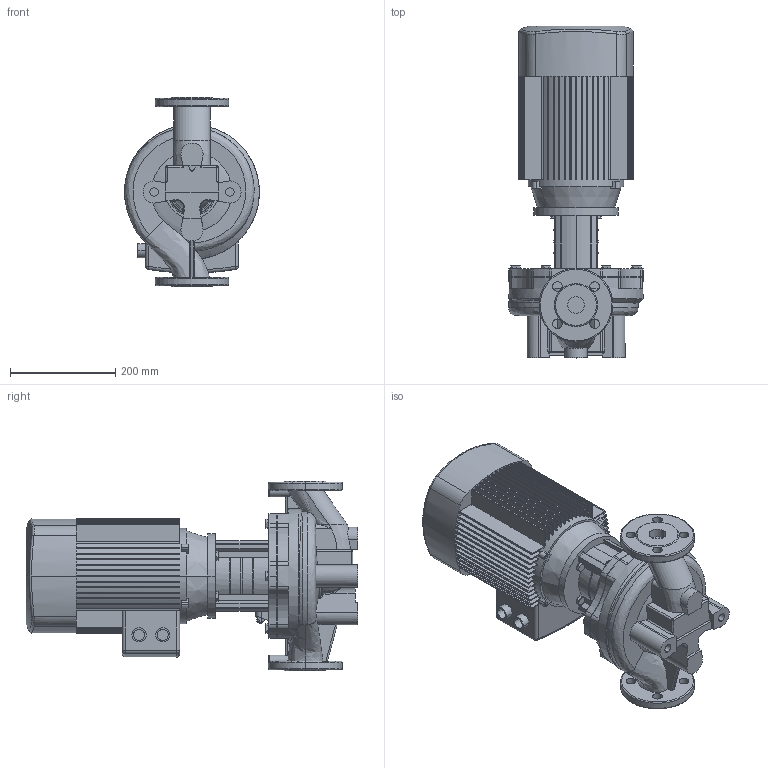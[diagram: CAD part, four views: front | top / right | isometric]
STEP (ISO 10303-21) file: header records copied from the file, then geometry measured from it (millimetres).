
FILE_DESCRIPTION (( 'STEP AP203' ), '1' );
FILE_NAME ('TD32-40G／2.STEP', '2026-09-07T01:41:34', ( '' ), ( '' ), 'SwSTEP 2.0', 'SolidWorks 2020', '' );
FILE_SCHEMA (( 'CONFIG_CONTROL_DESIGN' ));
Products named in the file (1): TD32-40Gㄞ2
Bounding box: 255.91 x 630 x 360 mm (x, y, z)
Volume: 19352655.6 mm3; surface area: 1188853.2 mm2
Topology: 1 solids, 8 shells, 1100 faces, 2934 edges, 1888 vertices
Faces by surface type: plane 610, cylinder 269, cone 102, torus 57, bspline 48, sphere 14
Entity records: 45212 total; most frequent: CARTESIAN_POINT 18011, ORIENTED_EDGE 5852, DIRECTION 5531, EDGE_CURVE 2926, AXIS2_PLACEMENT_3D 2038, VERTEX_POINT 1888, LINE 1455, VECTOR 1455
